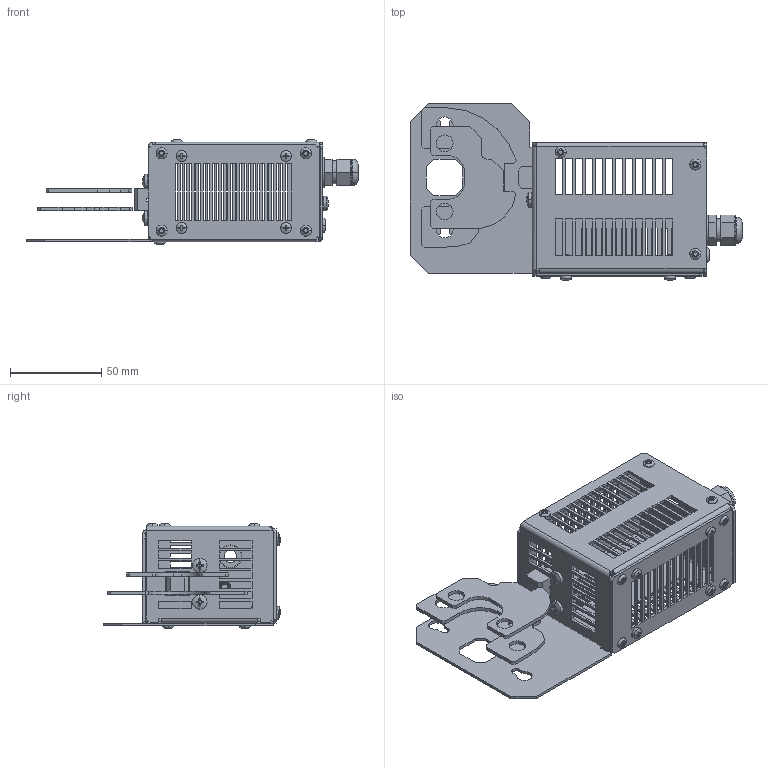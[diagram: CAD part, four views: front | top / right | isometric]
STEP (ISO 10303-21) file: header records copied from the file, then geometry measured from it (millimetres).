
FILE_DESCRIPTION((''),'2;1');
FILE_NAME('SCE-E24I_ASM','2019-07-15T13:03:40',('dougp'),('SAGINAW CONTROL & ENGINEERING'),'CREO PARAMETRIC BY PTC INC, 2017260','CREO PARAMETRIC BY PTC INC, 2017260','');
FILE_SCHEMA(('AUTOMOTIVE_DESIGN { 1 0 10303 214 1 1 1 1 }'));
Products named in the file (16): 2019-EL1460-BODY_1_1; CABLE_GLAND_M12_1_1; POPNUT_M4_HEX_OPEN_STEEL_1_1; EL-1460-PLUNGER_1_1; EL-1460_LRG_INTERLOCK_BRACKET_1; EL-1460_SML_INTERLOCK_BRACKET_1; 2019-EL1460_3PH-SONDBRKT_ASM_1__ASM; SCREW_DIN_7985-M4X10_Z_PL_1_1; 2019-EL1460_3PH-BASE_1_1; SCREW_DIM_7985-M3X12_STEEL_1_1; EL-1460_POWER_SUPPLY_ASSEMBLY_A_ASM; M3_X_6_AL_AL_RIVETED_1_1; 2019-EL1460-COVER_1_1; M4_X_9_5_AL_ST_PULLED_1_1; 2019-EL1460-COMPLETE_ASM_1_ASM__ASM; SCE-E24I_ASM
Assembly tree (30 placements, depth 4):
  SCE-E24I_ASM
    2019-EL1460-COMPLETE_ASM_1_ASM__ASM
      2019-EL1460-BODY_1_1
      CABLE_GLAND_M12_1_1
      2019-EL1460_3PH-SONDBRKT_ASM_1__ASM
        POPNUT_M4_HEX_OPEN_STEEL_1_1  x3
        EL-1460-PLUNGER_1_1
        EL-1460_LRG_INTERLOCK_BRACKET_1
        EL-1460_SML_INTERLOCK_BRACKET_1
      SCREW_DIN_7985-M4X10_Z_PL_1_1  x3
      2019-EL1460_3PH-BASE_1_1
      EL-1460_POWER_SUPPLY_ASSEMBLY_A_ASM
        SCREW_DIM_7985-M3X12_STEEL_1_1  x4
      M3_X_6_AL_AL_RIVETED_1_1  x9
      2019-EL1460-COVER_1_1
      M4_X_9_5_AL_ST_PULLED_1_1
Bounding box: 181.8 x 96.88 x 57.1 mm (x, y, z)
Volume: 60742.9 mm3; surface area: 87756.9 mm2
Topology: 27 solids, 32 shells, 1252 faces, 3323 edges, 2131 vertices
Faces by surface type: plane 817, cylinder 291, cone 54, torus 40, bspline 36, sphere 14
Entity records: 31003 total; most frequent: CARTESIAN_POINT 6249, ORIENTED_EDGE 4830, DIRECTION 4679, EDGE_CURVE 2421, VECTOR 1869, LINE 1869, VERTEX_POINT 1571, AXIS2_PLACEMENT_3D 1405
